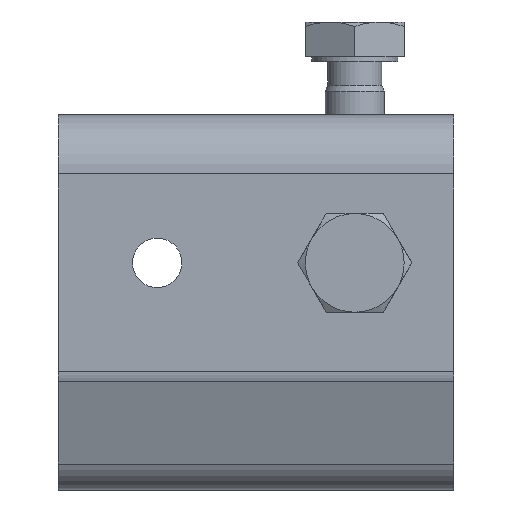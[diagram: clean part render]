
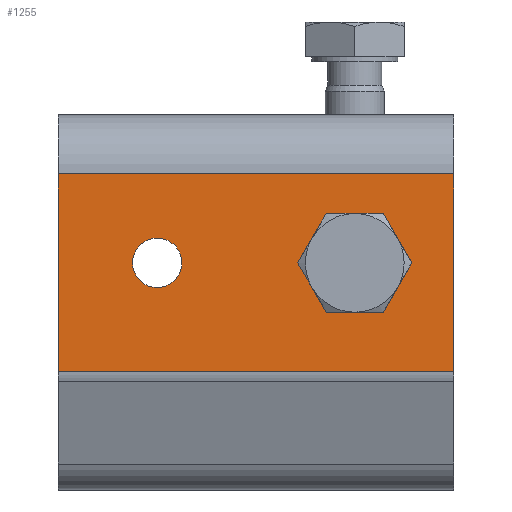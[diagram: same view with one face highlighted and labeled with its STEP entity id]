
A CAD part, left-side view. The second image highlights one B-rep face of the part: STEP entity #1255.
In plain terms, the highlighted planar face has unit normal (-1, 0, 0).
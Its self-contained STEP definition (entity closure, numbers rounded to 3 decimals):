
#65=FACE_BOUND('',#239,.T.);
#66=FACE_BOUND('',#240,.T.);
#143=FACE_OUTER_BOUND('',#238,.T.);
#238=EDGE_LOOP('',(#981,#982,#983,#984));
#239=EDGE_LOOP('',(#985));
#240=EDGE_LOOP('',(#986));
#318=LINE('',#1908,#418);
#346=LINE('',#1999,#446);
#349=LINE('',#2006,#449);
#353=LINE('',#2019,#453);
#418=VECTOR('',#1513,40.);
#446=VECTOR('',#1613,20.);
#449=VECTOR('',#1620,40.);
#453=VECTOR('',#1640,20.);
#521=CIRCLE('',#1356,2.5);
#523=CIRCLE('',#1359,2.459);
#571=VERTEX_POINT('',#1893);
#574=VERTEX_POINT('',#1901);
#598=VERTEX_POINT('',#1990);
#600=VERTEX_POINT('',#1995);
#601=VERTEX_POINT('',#1998);
#603=VERTEX_POINT('',#2005);
#686=EDGE_CURVE('',#574,#571,#318,.T.);
#725=EDGE_CURVE('',#598,#598,#521,.T.);
#727=EDGE_CURVE('',#600,#600,#523,.T.);
#728=EDGE_CURVE('',#601,#574,#346,.T.);
#732=EDGE_CURVE('',#603,#601,#349,.T.);
#739=EDGE_CURVE('',#571,#603,#353,.T.);
#981=ORIENTED_EDGE('',*,*,#686,.T.);
#982=ORIENTED_EDGE('',*,*,#739,.T.);
#983=ORIENTED_EDGE('',*,*,#732,.T.);
#984=ORIENTED_EDGE('',*,*,#728,.T.);
#985=ORIENTED_EDGE('',*,*,#727,.T.);
#986=ORIENTED_EDGE('',*,*,#725,.T.);
#1189=PLANE('',#1371);
#1255=ADVANCED_FACE('',(#143,#65,#66),#1189,.T.);
#1356=AXIS2_PLACEMENT_3D('',#1991,#1603,#1604);
#1359=AXIS2_PLACEMENT_3D('',#1996,#1609,#1610);
#1371=AXIS2_PLACEMENT_3D('',#2020,#1641,#1642);
#1513=DIRECTION('',(0.,1.,0.));
#1603=DIRECTION('center_axis',(1.,0.,0.));
#1604=DIRECTION('ref_axis',(0.,0.,
-1.));
#1609=DIRECTION('center_axis',(1.,0.,0.));
#1610=DIRECTION('ref_axis',(0.,0.,
1.));
#1613=DIRECTION('',(0.,0.,1.));
#1620=DIRECTION('',(0.,-1.,0.));
#1640=DIRECTION('',(0.,0.,-1.));
#1641=DIRECTION('center_axis',(-1.,0.,0.));
#1642=DIRECTION('ref_axis',(0.,0.,1.));
#1893=CARTESIAN_POINT('',(-19.,20.,-6.));
#1901=CARTESIAN_POINT('',(-19.,-20.,-6.));
#1908=CARTESIAN_POINT('',(-19.,10.,-6.));
#1990=CARTESIAN_POINT('',(-19.,10.,-12.5));
#1991=CARTESIAN_POINT('Origin',(-19.,10.,-15.));
#1995=CARTESIAN_POINT('',(-19.,-10.,-12.541));
#1996=CARTESIAN_POINT('Origin',(-19.,-10.,-15.));
#1998=CARTESIAN_POINT('',(-19.,-20.,-26.));
#1999=CARTESIAN_POINT('',(-19.,-20.,-41.436));
#2005=CARTESIAN_POINT('',(-19.,20.,-26.));
#2006=CARTESIAN_POINT('',(-19.,-10.,-26.));
#2019=CARTESIAN_POINT('',(-19.,20.,69.437));
#2020=CARTESIAN_POINT('Origin',(-19.,0.,67.468));
